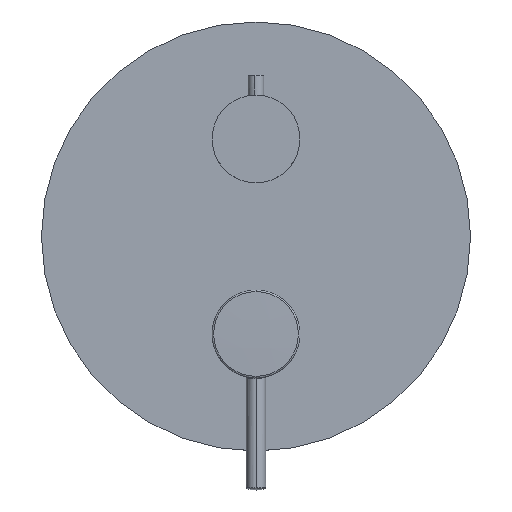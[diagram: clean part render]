
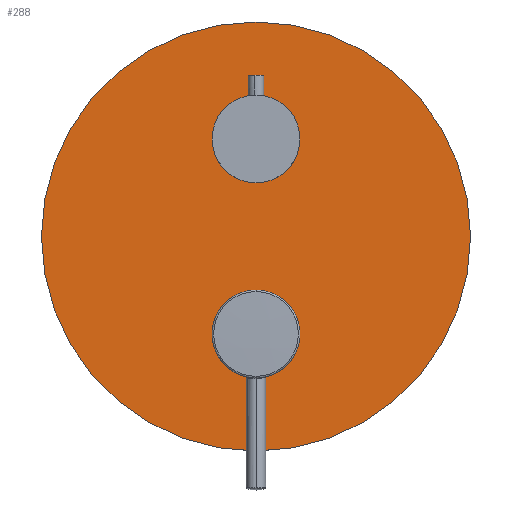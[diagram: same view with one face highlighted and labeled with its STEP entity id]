
A CAD part, top view. The second image highlights one B-rep face of the part: STEP entity #288.
In plain terms, the highlighted planar face has unit normal (0, 0, 1).
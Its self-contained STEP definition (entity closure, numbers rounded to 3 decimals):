
#29 = VERTEX_POINT ( 'NONE', #662 ) ;
#38 = DIRECTION ( 'NONE',  ( 0., 0., 1. ) ) ;
#44 = CIRCLE ( 'NONE', #2258, 22. ) ;
#54 = VERTEX_POINT ( 'NONE', #2450 ) ;
#84 = DIRECTION ( 'NONE',  ( 0., 0., 1. ) ) ;
#270 = EDGE_LOOP ( 'NONE', ( #1626, #2373, #996, #1437, #1581 ) ) ;
#288 = ADVANCED_FACE ( 'NONE', ( #1019, #835, #2019 ), #2223, .T. ) ;
#336 = DIRECTION ( 'NONE',  ( 0., 0., 1. ) ) ;
#361 = AXIS2_PLACEMENT_3D ( 'NONE', #1545, #38, #1406 ) ;
#370 = DIRECTION ( 'NONE',  ( 0., 0., -1. ) ) ;
#455 = EDGE_CURVE ( 'NONE', #29, #2263, #677, .T. ) ;
#468 = EDGE_CURVE ( 'NONE', #54, #2361, #44, .T. ) ;
#478 = DIRECTION ( 'NONE',  ( 0., 0., 1. ) ) ;
#479 = CARTESIAN_POINT ( 'NONE',  ( -110., 0., 2. ) ) ;
#483 = EDGE_CURVE ( 'NONE', #1359, #1730, #2440, .T. ) ;
#509 = VERTEX_POINT ( 'NONE', #1071 ) ;
#527 = VERTEX_POINT ( 'NONE', #479 ) ;
#548 = ORIENTED_EDGE ( 'NONE', *, *, #1589, .F. ) ;
#583 = VERTEX_POINT ( 'NONE', #1302 ) ;
#603 = LINE ( 'NONE', #1397, #886 ) ;
#640 = DIRECTION ( 'NONE',  ( 1., 0., 0. ) ) ;
#662 = CARTESIAN_POINT ( 'NONE',  ( -22.491, -49.374, 2. ) ) ;
#667 = CARTESIAN_POINT ( 'NONE',  ( 0., 0., 2. ) ) ;
#677 = CIRCLE ( 'NONE', #361, 22.5 ) ;
#710 = EDGE_CURVE ( 'NONE', #583, #2361, #603, .T. ) ;
#805 = CARTESIAN_POINT ( 'NONE',  ( -22.5, 50., 2. ) ) ;
#835 = FACE_BOUND ( 'NONE', #1956, .T. ) ;
#860 = DIRECTION ( 'NONE',  ( 0., 0., 1. ) ) ;
#886 = VECTOR ( 'NONE', #2542, 1000. ) ;
#991 = DIRECTION ( 'NONE',  ( 1., 0., 0. ) ) ;
#996 = ORIENTED_EDGE ( 'NONE', *, *, #2260, .F. ) ;
#1019 = FACE_BOUND ( 'NONE', #270, .T. ) ;
#1071 = CARTESIAN_POINT ( 'NONE',  ( 110., 0., 2. ) ) ;
#1176 = EDGE_CURVE ( 'NONE', #527, #509, #2506, .T. ) ;
#1193 = CARTESIAN_POINT ( 'NONE',  ( 0., -49.374, 2. ) ) ;
#1210 = LINE ( 'NONE', #1193, #1979 ) ;
#1231 = CARTESIAN_POINT ( 'NONE',  ( 0., 50., 2. ) ) ;
#1256 = AXIS2_PLACEMENT_3D ( 'NONE', #1712, #336, #1516 ) ;
#1287 = CARTESIAN_POINT ( 'NONE',  ( 22.5, 50., 2. ) ) ;
#1302 = CARTESIAN_POINT ( 'NONE',  ( 22.491, -49.374, 2. ) ) ;
#1349 = AXIS2_PLACEMENT_3D ( 'NONE', #2246, #478, #1997 ) ;
#1353 = CARTESIAN_POINT ( 'NONE',  ( 0., -50., 2. ) ) ;
#1356 = CIRCLE ( 'NONE', #1927, 22.5 ) ;
#1359 = VERTEX_POINT ( 'NONE', #1287 ) ;
#1397 = CARTESIAN_POINT ( 'NONE',  ( 0., -49.374, 2. ) ) ;
#1406 = DIRECTION ( 'NONE',  ( 0., -1., 0. ) ) ;
#1430 = CARTESIAN_POINT ( 'NONE',  ( 0., -50., 2. ) ) ;
#1437 = ORIENTED_EDGE ( 'NONE', *, *, #455, .F. ) ;
#1459 = ORIENTED_EDGE ( 'NONE', *, *, #483, .F. ) ;
#1499 = CIRCLE ( 'NONE', #1256, 110. ) ;
#1516 = DIRECTION ( 'NONE',  ( 1., 0., 0. ) ) ;
#1545 = CARTESIAN_POINT ( 'NONE',  ( 0., -50., 2. ) ) ;
#1581 = ORIENTED_EDGE ( 'NONE', *, *, #2044, .F. ) ;
#1589 = EDGE_CURVE ( 'NONE', #1730, #1359, #1356, .T. ) ;
#1626 = ORIENTED_EDGE ( 'NONE', *, *, #468, .T. ) ;
#1649 = EDGE_LOOP ( 'NONE', ( #1989, #1939 ) ) ;
#1662 = DIRECTION ( 'NONE',  ( 1., 0., 0. ) ) ;
#1663 = DIRECTION ( 'NONE',  ( 0., 0., 1. ) ) ;
#1675 = DIRECTION ( 'NONE',  ( 0., 0., 1. ) ) ;
#1677 = DIRECTION ( 'NONE',  ( 1., 0., 0. ) ) ;
#1712 = CARTESIAN_POINT ( 'NONE',  ( 0., 0., 2. ) ) ;
#1721 = CIRCLE ( 'NONE', #2002, 22.5 ) ;
#1730 = VERTEX_POINT ( 'NONE', #805 ) ;
#1894 = AXIS2_PLACEMENT_3D ( 'NONE', #2212, #84, #640 ) ;
#1927 = AXIS2_PLACEMENT_3D ( 'NONE', #1231, #1675, #1662 ) ;
#1935 = CARTESIAN_POINT ( 'NONE',  ( 21.991, -49.374, 2. ) ) ;
#1939 = ORIENTED_EDGE ( 'NONE', *, *, #2419, .T. ) ;
#1956 = EDGE_LOOP ( 'NONE', ( #1459, #548 ) ) ;
#1957 = DIRECTION ( 'NONE',  ( -1., 0., 0. ) ) ;
#1979 = VECTOR ( 'NONE', #1957, 1000. ) ;
#1989 = ORIENTED_EDGE ( 'NONE', *, *, #1176, .T. ) ;
#1997 = DIRECTION ( 'NONE',  ( 1., 0., 0. ) ) ;
#2002 = AXIS2_PLACEMENT_3D ( 'NONE', #1430, #860, #2503 ) ;
#2019 = FACE_OUTER_BOUND ( 'NONE', #1649, .T. ) ;
#2044 = EDGE_CURVE ( 'NONE', #54, #29, #1210, .T. ) ;
#2065 = CARTESIAN_POINT ( 'NONE',  ( 0., -72.5, 2. ) ) ;
#2212 = CARTESIAN_POINT ( 'NONE',  ( 0., 50., 2. ) ) ;
#2223 = PLANE ( 'NONE',  #1349 ) ;
#2246 = CARTESIAN_POINT ( 'NONE',  ( 0., 0., 2. ) ) ;
#2258 = AXIS2_PLACEMENT_3D ( 'NONE', #1353, #370, #991 ) ;
#2260 = EDGE_CURVE ( 'NONE', #2263, #583, #1721, .T. ) ;
#2263 = VERTEX_POINT ( 'NONE', #2065 ) ;
#2315 = AXIS2_PLACEMENT_3D ( 'NONE', #667, #1663, #1677 ) ;
#2361 = VERTEX_POINT ( 'NONE', #1935 ) ;
#2373 = ORIENTED_EDGE ( 'NONE', *, *, #710, .F. ) ;
#2419 = EDGE_CURVE ( 'NONE', #509, #527, #1499, .T. ) ;
#2440 = CIRCLE ( 'NONE', #1894, 22.5 ) ;
#2450 = CARTESIAN_POINT ( 'NONE',  ( -21.991, -49.374, 2. ) ) ;
#2503 = DIRECTION ( 'NONE',  ( 0., -1., 0. ) ) ;
#2506 = CIRCLE ( 'NONE', #2315, 110. ) ;
#2542 = DIRECTION ( 'NONE',  ( -1., 0., 0. ) ) ;
